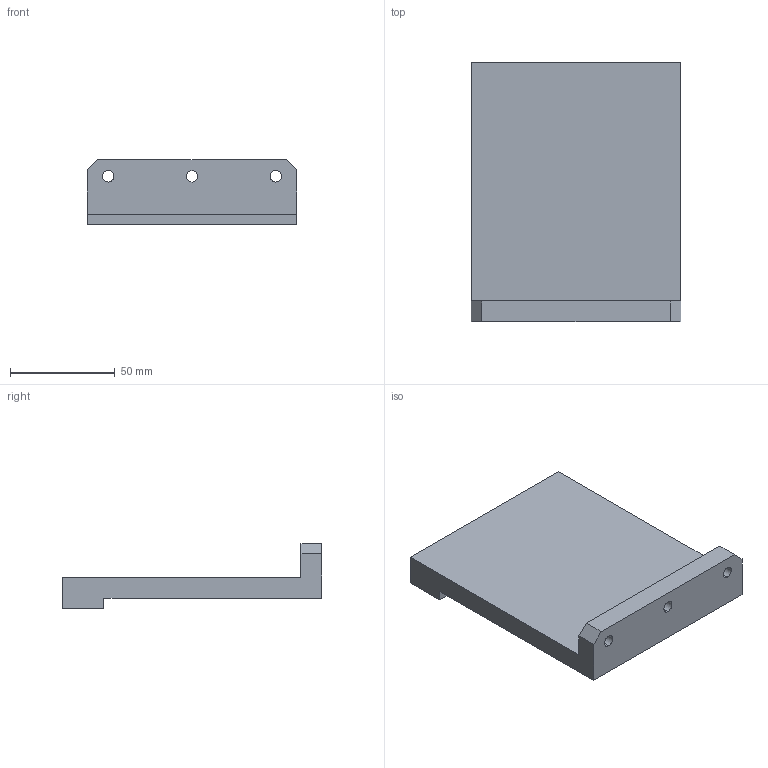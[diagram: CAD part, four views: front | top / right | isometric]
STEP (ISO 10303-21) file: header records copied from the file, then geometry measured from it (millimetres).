
FILE_DESCRIPTION (( 'STEP AP214' ), '1' );
FILE_NAME ('AGZ061.10_V1挡板.STEP', '2021-09-24T07:59:54', ( '微软中国' ), ( 'Microsoft' ), 'SwSTEP 2.0', 'SolidWorks 2017', '' );
FILE_SCHEMA (( 'AUTOMOTIVE_DESIGN' ));
Length unit declared in the file: millimetre
Products named in the file (1): AGZ061.10_V1結啣
Bounding box: 100 x 124 x 31 mm (x, y, z)
Volume: 148456.8 mm3; surface area: 34819.4 mm2
Topology: 1 solids, 1 shells, 30 faces, 78 edges, 47 vertices
Faces by surface type: cylinder 12, plane 12, cone 6
Entity records: 988 total; most frequent: DIRECTION 158, CARTESIAN_POINT 150, ORIENTED_EDGE 144, EDGE_CURVE 72, AXIS2_PLACEMENT_3D 55, VECTOR 48, LINE 48, VERTEX_POINT 47
